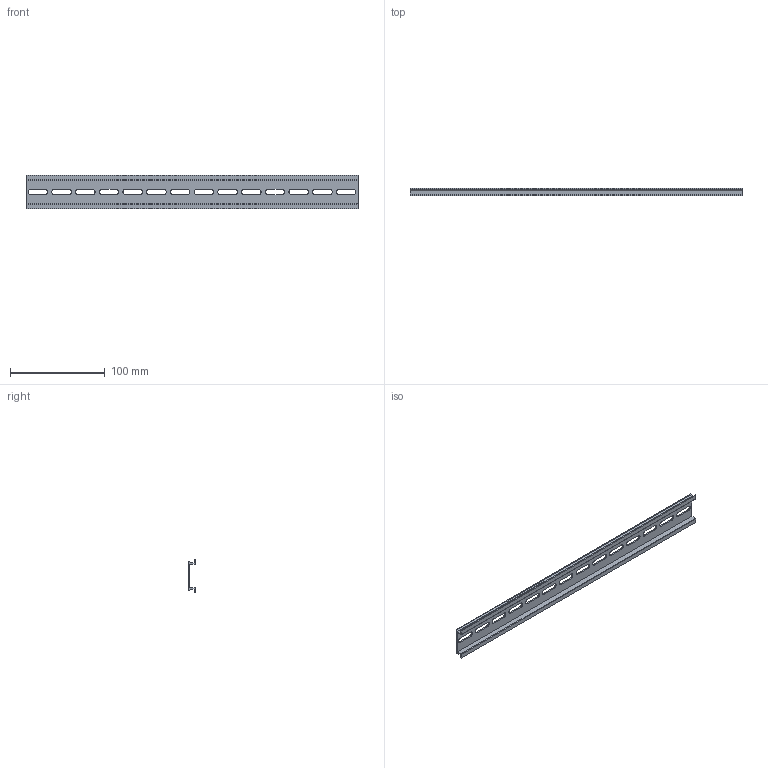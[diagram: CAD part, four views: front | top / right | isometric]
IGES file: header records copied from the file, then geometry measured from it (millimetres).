
Start section: ------------------------------------------------------------------------
Global section: file name: D:\ICADMX\tmp\trans3d_spg\CVICAD02.21224.DIN-RAIL350_7837.igs; native system: spGate; preprocessor: ver12.6.6; author: Unknown; organization: Unknown; date: 200901.142040; units: millimetre
Bounding box: 350 x 7.5 x 35 mm (x, y, z)
Volume: 24709.4 mm3; surface area: 33065.4 mm2
Topology: 1 solids, 1 shells, 76 faces, 222 edges, 148 vertices
Faces by surface type: bspline 76
